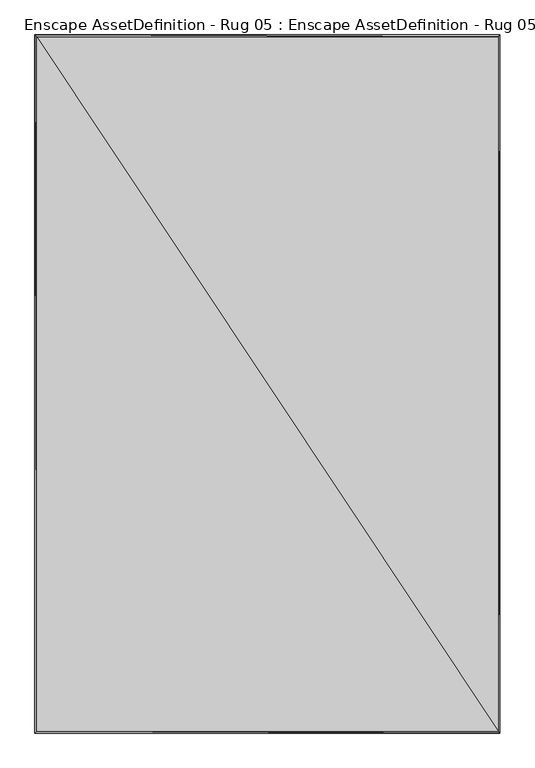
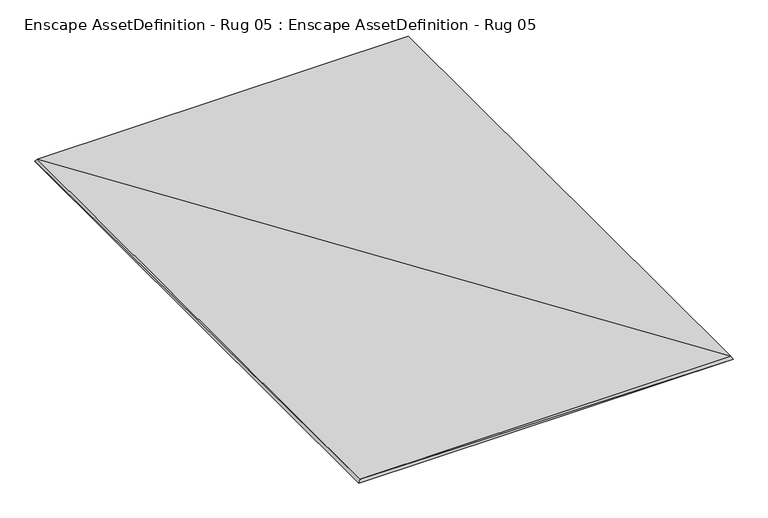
"""IFC4 building model written with IfcOpenShell, lengths in millimetres: geographic element geometry, Enscape AssetDefinition - Rug 05 : Enscape AssetDefinition - Rug 05."""

from ifc_helpers import new_model, si_unit, origin, place, context, project, spatial, faceted_brep, source, transform, mapped, element, save


def enscape_assetdefinition_rug_05_enscape_assetdefinition_rug_c4f60c79(model_context):
    return source(origin(), model_context, "Body", "Brep", [
        faceted_brep([(992.2863841, 1492.2863245, 13.0002396), (992.2863841, -1492.2863245, 12.99976), (1000.0, 1500.0, 0.00024), (-992.2863841, -1492.2863245, 12.99976), (-992.2863841, 1492.2863245, 13.0002396), (-1000.0, -1500.0, -0.00024), (-1000.0, 1500.0, 0.00024), (1000.0, -1500.0, -0.00024)], [[[0, 1, 2]], [[3, 1, 4]], [[5, 3, 6]], [[4, 0, 6]], [[1, 3, 7]], [[2, 7, 6]], [[2, 1, 7]], [[4, 1, 0]], [[6, 3, 4]], [[6, 0, 2]], [[7, 3, 5]], [[6, 7, 5]]]),
    ])


if __name__ == "__main__":
    model = new_model("IFC4")
    model_context = context("Model", 3, world=origin())
    ifc_project = project(units=[si_unit("LENGTHUNIT", "METRE", prefix="MILLI")], contexts=[model_context])
    site = spatial("IfcSite", under=ifc_project)
    building = spatial("IfcBuilding", under=site)
    placement = place(None, origin())
    enscape_assetdefinition_rug_05_enscape_assetdefinition_rug_shape = enscape_assetdefinition_rug_05_enscape_assetdefinition_rug_c4f60c79(model_context)
    element("IfcGeographicElement", 1, ObjectType="Enscape AssetDefinition - Rug 05 : Enscape AssetDefinition - Rug 05", at=placement, inside=building, context=model_context, shape_type="MappedRepresentation", body=[
        mapped(enscape_assetdefinition_rug_05_enscape_assetdefinition_rug_shape, transform((0.0, 0.0, 0.0), x_axis=(1.0, 0.0, 0.0), y_axis=(0.0, 1.0, 0.0), z_axis=(0.0, 0.0, 1.0))),
    ])
    save(model, "model.ifc")
